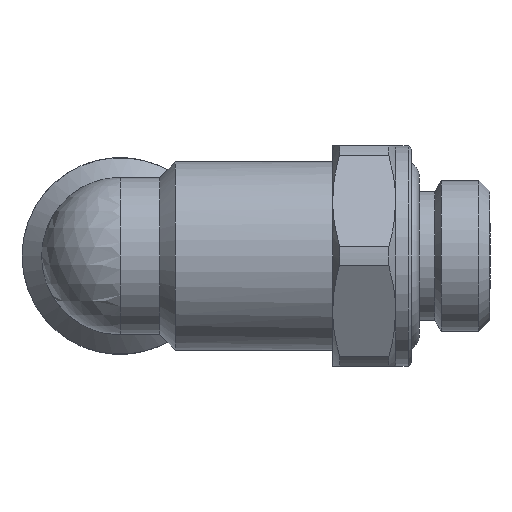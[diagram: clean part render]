
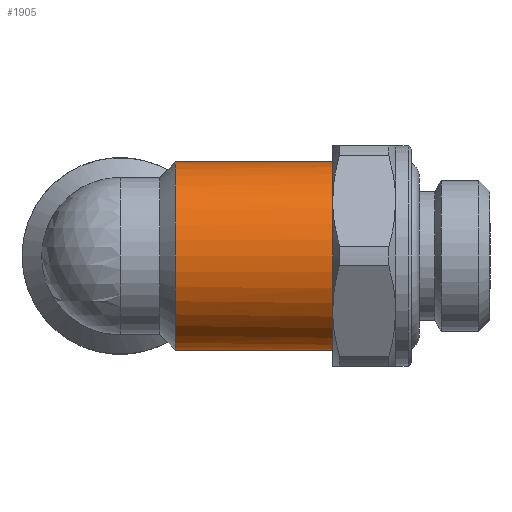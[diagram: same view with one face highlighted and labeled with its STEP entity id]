
A CAD part, left-side view. The second image highlights one B-rep face of the part: STEP entity #1905.
In plain terms, the highlighted cylindrical face has radius 6 mm (diameter 12 mm), a full revolution.
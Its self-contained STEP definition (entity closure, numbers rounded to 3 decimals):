
#146=CARTESIAN_POINT('',(4.822,10.,3.571));
#147=VERTEX_POINT('',#146);
#161=CARTESIAN_POINT('',(5.05,9.692,3.24));
#162=VERTEX_POINT('',#161);
#163=CARTESIAN_POINT('',(5.05,9.692,3.24));
#164=CARTESIAN_POINT('',(4.975,9.792,3.357));
#165=CARTESIAN_POINT('',(4.899,9.894,3.467));
#166=CARTESIAN_POINT('',(4.822,10.,3.571));
#167=B_SPLINE_CURVE_WITH_KNOTS('',3,(#163,#164,#165,#166),.UNSPECIFIED.,.F.,.U.,(4,4),(2.803,2.853),.UNSPECIFIED.);
#168=EDGE_CURVE('',#162,#147,#167,.T.);
#170=CARTESIAN_POINT('',(5.05,9.692,-3.24));
#171=VERTEX_POINT('',#170);
#179=CARTESIAN_POINT('',(4.822,10.,-3.571));
#180=VERTEX_POINT('',#179);
#181=CARTESIAN_POINT('',(4.822,10.,-3.571));
#182=CARTESIAN_POINT('',(4.899,9.894,-3.467));
#183=CARTESIAN_POINT('',(4.975,9.792,-3.357));
#184=CARTESIAN_POINT('',(5.05,9.692,-3.24));
#185=B_SPLINE_CURVE_WITH_KNOTS('',3,(#181,#182,#183,#184),.UNSPECIFIED.,.F.,.U.,(4,4),(2.043,2.093),.UNSPECIFIED.);
#186=EDGE_CURVE('',#180,#171,#185,.T.);
#1103=CARTESIAN_POINT('',(-6.,0.,0.0));
#1104=VERTEX_POINT('',#1103);
#1105=CARTESIAN_POINT('',(0.,0.,0.0));
#1106=DIRECTION('',(0.,1.0,0.0));
#1107=DIRECTION('',(-1.0,0.,0.0));
#1108=AXIS2_PLACEMENT_3D('',#1105,#1106,#1107);
#1109=CIRCLE('',#1108,6.);
#1110=EDGE_CURVE('',#1104,#1104,#1109,.T.);
#1719=CARTESIAN_POINT('',(5.916,7.72,1.));
#1720=VERTEX_POINT('',#1719);
#1734=CARTESIAN_POINT('',(5.916,5.166,1.0));
#1735=VERTEX_POINT('',#1734);
#1736=CARTESIAN_POINT('',(5.916,5.166,1.0));
#1737=DIRECTION('',(0.,1.0,0.));
#1738=VECTOR('',#1737,2.554);
#1739=LINE('',#1736,#1738);
#1740=EDGE_CURVE('',#1735,#1720,#1739,.T.);
#1766=CARTESIAN_POINT('',(5.916,5.166,-1.0));
#1767=VERTEX_POINT('',#1766);
#1774=CARTESIAN_POINT('',(5.916,7.72,-1.));
#1775=VERTEX_POINT('',#1774);
#1776=CARTESIAN_POINT('',(5.916,7.72,-1.));
#1777=DIRECTION('',(0.,-1.0,0.));
#1778=VECTOR('',#1777,2.554);
#1779=LINE('',#1776,#1778);
#1780=EDGE_CURVE('',#1775,#1767,#1779,.T.);
#1811=CARTESIAN_POINT('',(0.,-0.75,0.0));
#1812=DIRECTION('',(0.707,-0.707,0.0));
#1813=DIRECTION('',(-0.707,-0.707,0.0));
#1814=AXIS2_PLACEMENT_3D('',#1811,#1812,#1813);
#1815=ELLIPSE('',#1814,8.485,6.);
#1816=EDGE_CURVE('',#1767,#1735,#1815,.T.);
#1851=CARTESIAN_POINT('',(0.,5.,0.0));
#1852=DIRECTION('',(0.,1.0,0.0));
#1853=DIRECTION('',(-1.0,0.,0.0));
#1854=AXIS2_PLACEMENT_3D('',#1851,#1852,#1853);
#1855=CYLINDRICAL_SURFACE('',#1854,6.);
#1856=ORIENTED_EDGE('',*,*,#1740,.T.);
#1857=CARTESIAN_POINT('',(5.916,7.72,1.));
#1858=CARTESIAN_POINT('',(5.87,7.814,1.273));
#1859=CARTESIAN_POINT('',(5.806,7.945,1.532));
#1860=CARTESIAN_POINT('',(5.735,8.095,1.762));
#1861=CARTESIAN_POINT('',(5.683,8.205,1.932));
#1862=CARTESIAN_POINT('',(5.629,8.322,2.084));
#1863=CARTESIAN_POINT('',(5.568,8.455,2.235));
#1864=CARTESIAN_POINT('',(5.428,8.764,2.585));
#1865=CARTESIAN_POINT('',(5.26,9.15,2.902));
#1866=CARTESIAN_POINT('',(5.103,9.553,3.155));
#1867=CARTESIAN_POINT('',(5.085,9.599,3.184));
#1868=CARTESIAN_POINT('',(5.068,9.645,3.213));
#1869=CARTESIAN_POINT('',(5.05,9.692,3.24));
#1870=B_SPLINE_CURVE_WITH_KNOTS('',3,(#1857,#1858,#1859,#1860,#1861,#1862,#1863,#1864,#1865,#1866,#1867,#1868,#1869),.UNSPECIFIED.,.F.,.U.,(4,3,3,3,4),(2.452,2.534,2.595,2.735,2.751),.UNSPECIFIED.);
#1871=EDGE_CURVE('',#1720,#162,#1870,.T.);
#1872=ORIENTED_EDGE('',*,*,#1871,.T.);
#1873=ORIENTED_EDGE('',*,*,#168,.T.);
#1874=CARTESIAN_POINT('',(0.,10.,0.0));
#1875=DIRECTION('',(0.,1.0,0.0));
#1876=DIRECTION('',(-1.0,0.,0.0));
#1877=AXIS2_PLACEMENT_3D('',#1874,#1875,#1876);
#1878=CIRCLE('',#1877,6.);
#1879=EDGE_CURVE('',#180,#147,#1878,.T.);
#1880=ORIENTED_EDGE('',*,*,#1879,.F.);
#1881=ORIENTED_EDGE('',*,*,#186,.T.);
#1882=CARTESIAN_POINT('',(5.05,9.692,-3.24));
#1883=CARTESIAN_POINT('',(5.165,9.388,-3.061));
#1884=CARTESIAN_POINT('',(5.289,9.088,-2.846));
#1885=CARTESIAN_POINT('',(5.405,8.82,-2.604));
#1886=CARTESIAN_POINT('',(5.479,8.652,-2.452));
#1887=CARTESIAN_POINT('',(5.549,8.497,-2.29));
#1888=CARTESIAN_POINT('',(5.612,8.359,-2.123));
#1889=CARTESIAN_POINT('',(5.658,8.259,-2.001));
#1890=CARTESIAN_POINT('',(5.701,8.168,-1.877));
#1891=CARTESIAN_POINT('',(5.742,8.081,-1.741));
#1892=CARTESIAN_POINT('',(5.81,7.937,-1.516));
#1893=CARTESIAN_POINT('',(5.871,7.811,-1.264));
#1894=CARTESIAN_POINT('',(5.916,7.72,-1.));
#1895=B_SPLINE_CURVE_WITH_KNOTS('',3,(#1882,#1883,#1884,#1885,#1886,#1887,#1888,#1889,#1890,#1891,#1892,#1893,#1894),.UNSPECIFIED.,.F.,.U.,(4,3,3,3,4),(1.957,2.062,2.128,2.177,2.256),.UNSPECIFIED.);
#1896=EDGE_CURVE('',#171,#1775,#1895,.T.);
#1897=ORIENTED_EDGE('',*,*,#1896,.T.);
#1898=ORIENTED_EDGE('',*,*,#1780,.T.);
#1899=ORIENTED_EDGE('',*,*,#1816,.T.);
#1900=EDGE_LOOP('',(#1856,#1872,#1873,#1880,#1881,#1897,#1898,#1899));
#1901=FACE_OUTER_BOUND('',#1900,.T.);
#1902=ORIENTED_EDGE('',*,*,#1110,.T.);
#1903=EDGE_LOOP('',(#1902));
#1904=FACE_BOUND('',#1903,.T.);
#1905=ADVANCED_FACE('',(#1901,#1904),#1855,.T.);
